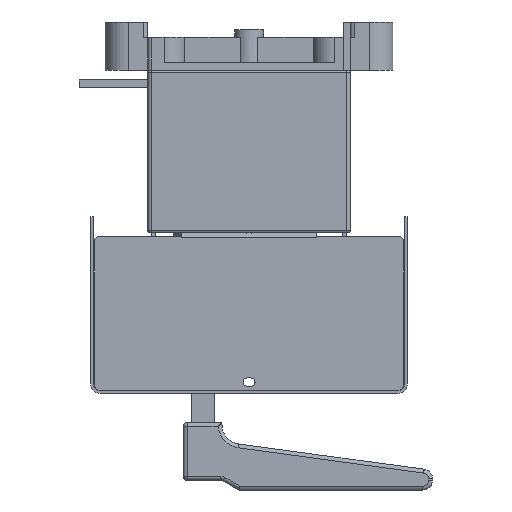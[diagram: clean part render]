
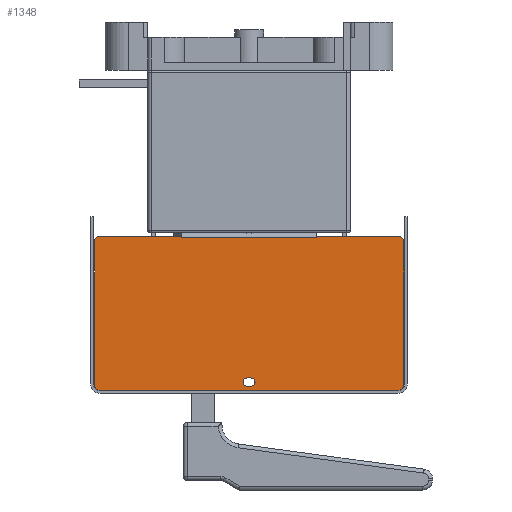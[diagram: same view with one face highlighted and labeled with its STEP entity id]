
A CAD part, left-side view. The second image highlights one B-rep face of the part: STEP entity #1348.
In plain terms, the highlighted planar face has unit normal (-1, 0, 0).
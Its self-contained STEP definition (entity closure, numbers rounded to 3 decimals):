
#188=FACE_BOUND('',#4172,.T.);
#189=FACE_BOUND('',#4173,.T.);
#1348=ADVANCED_FACE('',(#188,#189),#2202,.T.);
#2202=PLANE('',#21301);
#4172=EDGE_LOOP('',(#8927,#8928,#8929,#8930,#8931,#8932,#8933,#8934,#8935,
#8936,#8937,#8938,#8939,#8940));
#4173=EDGE_LOOP('',(#8941,#8942,#8943,#8944));
#5133=CIRCLE('',#21279,2.1);
#5135=CIRCLE('',#21283,2.1);
#5137=CIRCLE('',#21287,3.);
#5139=CIRCLE('',#21290,3.);
#5141=CIRCLE('',#21294,3.);
#5143=CIRCLE('',#21298,3.);
#8927=ORIENTED_EDGE('',*,*,#14911,.F.);
#8928=ORIENTED_EDGE('',*,*,#14912,.T.);
#8929=ORIENTED_EDGE('',*,*,#14913,.T.);
#8930=ORIENTED_EDGE('',*,*,#14914,.T.);
#8931=ORIENTED_EDGE('',*,*,#14915,.F.);
#8932=ORIENTED_EDGE('',*,*,#14903,.T.);
#8933=ORIENTED_EDGE('',*,*,#14908,.T.);
#8934=ORIENTED_EDGE('',*,*,#14891,.T.);
#8935=ORIENTED_EDGE('',*,*,#14894,.T.);
#8936=ORIENTED_EDGE('',*,*,#14869,.T.);
#8937=ORIENTED_EDGE('',*,*,#14897,.T.);
#8938=ORIENTED_EDGE('',*,*,#14900,.T.);
#8939=ORIENTED_EDGE('',*,*,#14902,.T.);
#8940=ORIENTED_EDGE('',*,*,#14877,.T.);
#8941=ORIENTED_EDGE('',*,*,#14881,.T.);
#8942=ORIENTED_EDGE('',*,*,#14885,.T.);
#8943=ORIENTED_EDGE('',*,*,#14888,.T.);
#8944=ORIENTED_EDGE('',*,*,#14910,.T.);
#12064=VERTEX_POINT('',#30161);
#12109=VERTEX_POINT('',#30258);
#12393=VERTEX_POINT('',#31349);
#12394=VERTEX_POINT('',#31351);
#12397=VERTEX_POINT('',#31358);
#12398=VERTEX_POINT('',#31360);
#12400=VERTEX_POINT('',#31366);
#12402=VERTEX_POINT('',#31372);
#12405=VERTEX_POINT('',#31379);
#12406=VERTEX_POINT('',#31381);
#12408=VERTEX_POINT('',#31390);
#12410=VERTEX_POINT('',#31396);
#12411=VERTEX_POINT('',#31403);
#12412=VERTEX_POINT('',#31404);
#12415=VERTEX_POINT('',#31418);
#12416=VERTEX_POINT('',#31420);
#12417=VERTEX_POINT('',#31422);
#12418=VERTEX_POINT('',#31424);
#14869=EDGE_CURVE('',#12064,#12109,#17336,.T.);
#14877=EDGE_CURVE('',#12394,#12393,#17343,.T.);
#14881=EDGE_CURVE('',#12398,#12397,#5133,.T.);
#14885=EDGE_CURVE('',#12397,#12400,#17349,.T.);
#14888=EDGE_CURVE('',#12400,#12402,#5135,.T.);
#14891=EDGE_CURVE('',#12406,#12405,#17353,.T.);
#14894=EDGE_CURVE('',#12405,#12064,#5137,.T.);
#14897=EDGE_CURVE('',#12109,#12408,#5139,.T.);
#14900=EDGE_CURVE('',#12408,#12410,#17358,.T.);
#14902=EDGE_CURVE('',#12410,#12394,#5141,.T.);
#14903=EDGE_CURVE('',#12411,#12412,#17359,.T.);
#14908=EDGE_CURVE('',#12412,#12406,#5143,.T.);
#14910=EDGE_CURVE('',#12402,#12398,#17364,.T.);
#14911=EDGE_CURVE('',#12415,#12393,#17365,.T.);
#14912=EDGE_CURVE('',#12415,#12416,#17366,.T.);
#14913=EDGE_CURVE('',#12416,#12417,#17367,.T.);
#14914=EDGE_CURVE('',#12417,#12418,#17368,.T.);
#14915=EDGE_CURVE('',#12411,#12418,#17369,.T.);
#17336=LINE('',#31332,#19445);
#17343=LINE('',#31350,#19452);
#17349=LINE('',#31367,#19458);
#17353=LINE('',#31380,#19462);
#17358=LINE('',#31397,#19467);
#17359=LINE('',#31402,#19468);
#17364=LINE('',#31415,#19473);
#17365=LINE('',#31417,#19474);
#17366=LINE('',#31419,#19475);
#17367=LINE('',#31421,#19476);
#17368=LINE('',#31423,#19477);
#17369=LINE('',#31425,#19478);
#19445=VECTOR('',#25436,1.);
#19452=VECTOR('',#25449,1.);
#19458=VECTOR('',#25463,1.);
#19462=VECTOR('',#25475,1.);
#19467=VECTOR('',#25494,1.);
#19468=VECTOR('',#25503,1.);
#19473=VECTOR('',#25516,1.);
#19474=VECTOR('',#25519,1.);
#19475=VECTOR('',#25520,1.);
#19476=VECTOR('',#25521,1.);
#19477=VECTOR('',#25522,1.);
#19478=VECTOR('',#25523,1.);
#21279=AXIS2_PLACEMENT_3D('',#31359,#25456,#25457);
#21283=AXIS2_PLACEMENT_3D('',#31373,#25469,#25470);
#21287=AXIS2_PLACEMENT_3D('',#31385,#25481,#25482);
#21290=AXIS2_PLACEMENT_3D('',#31391,#25488,#25489);
#21294=AXIS2_PLACEMENT_3D('',#31400,#25499,#25500);
#21298=AXIS2_PLACEMENT_3D('',#31412,#25511,#25512);
#21301=AXIS2_PLACEMENT_3D('',#31426,#25524,#25525);
#25436=DIRECTION('',(0.,-1.,0.));
#25449=DIRECTION('',(0.,1.,0.));
#25456=DIRECTION('',(1.,0.,0.));
#25457=DIRECTION('',(0.,1.,0.));
#25463=DIRECTION('',(0.,-1.,0.));
#25469=DIRECTION('',(1.,0.,0.));
#25470=DIRECTION('',(0.,1.,0.));
#25475=DIRECTION('',(0.,0.,-1.));
#25481=DIRECTION('',(-1.,0.,0.));
#25482=DIRECTION('',(0.,1.,0.));
#25488=DIRECTION('',(-1.,0.,0.));
#25489=DIRECTION('',(0.,1.,0.));
#25494=DIRECTION('',(0.,0.,1.));
#25499=DIRECTION('',(-1.,0.,0.));
#25500=DIRECTION('',(0.,1.,0.));
#25503=DIRECTION('',(0.,1.,0.));
#25511=DIRECTION('',(-1.,0.,0.));
#25512=DIRECTION('',(0.,1.,0.));
#25516=DIRECTION('',(0.,1.,0.));
#25519=DIRECTION('',(0.,0.,1.));
#25520=DIRECTION('',(0.,1.,0.));
#25521=DIRECTION('',(0.,1.,0.));
#25522=DIRECTION('',(0.,1.,0.));
#25523=DIRECTION('',(0.,0.,-1.));
#25524=DIRECTION('',(-1.,0.,0.));
#25525=DIRECTION('',(0.,-1.,0.));
#30161=CARTESIAN_POINT('',(-189.3,77.,-165.8));
#30258=CARTESIAN_POINT('',(-189.3,-77.,-165.8));
#31332=CARTESIAN_POINT('',(-189.3,77.,-165.8));
#31349=CARTESIAN_POINT('',(-189.3,-35.002,-85.8));
#31350=CARTESIAN_POINT('',(-189.3,-77.,-85.8));
#31351=CARTESIAN_POINT('',(-189.3,-77.,-85.8));
#31358=CARTESIAN_POINT('',(-189.3,1.,-159.3));
#31359=CARTESIAN_POINT('',(-189.3,1.,-161.4));
#31360=CARTESIAN_POINT('',(-189.3,1.,-163.5));
#31366=CARTESIAN_POINT('',(-189.3,-1.,-159.3));
#31367=CARTESIAN_POINT('',(-189.3,1.,-159.3));
#31372=CARTESIAN_POINT('',(-189.3,-1.,-163.5));
#31373=CARTESIAN_POINT('',(-189.3,-1.,-161.4));
#31379=CARTESIAN_POINT('',(-189.3,80.,-162.8));
#31380=CARTESIAN_POINT('',(-189.3,80.,-88.8));
#31381=CARTESIAN_POINT('',(-189.3,80.,-88.8));
#31385=CARTESIAN_POINT('',(-189.3,77.,-162.8));
#31390=CARTESIAN_POINT('',(-189.3,-80.,-162.8));
#31391=CARTESIAN_POINT('',(-189.3,-77.,-162.8));
#31396=CARTESIAN_POINT('',(-189.3,-80.,-88.8));
#31397=CARTESIAN_POINT('',(-189.3,-80.,-162.8));
#31400=CARTESIAN_POINT('',(-189.3,-77.,-88.8));
#31402=CARTESIAN_POINT('',(-189.3,-77.,-85.8));
#31403=CARTESIAN_POINT('',(-189.3,35.002,-85.8));
#31404=CARTESIAN_POINT('',(-189.3,77.,-85.8));
#31412=CARTESIAN_POINT('',(-189.3,77.,-88.8));
#31415=CARTESIAN_POINT('',(-189.3,-1.,-163.5));
#31417=CARTESIAN_POINT('',(-189.3,-35.002,-162.8));
#31418=CARTESIAN_POINT('',(-189.3,-35.002,-86.8));
#31419=CARTESIAN_POINT('',(-189.3,77.,-86.8));
#31420=CARTESIAN_POINT('',(-189.3,-35.,-86.8));
#31421=CARTESIAN_POINT('',(-189.3,50.5,-86.8));
#31422=CARTESIAN_POINT('',(-189.3,35.,-86.8));
#31423=CARTESIAN_POINT('',(-189.3,77.,-86.8));
#31424=CARTESIAN_POINT('',(-189.3,35.002,-86.8));
#31425=CARTESIAN_POINT('',(-189.3,35.002,-162.8));
#31426=CARTESIAN_POINT('',(-189.3,77.,-162.8));
